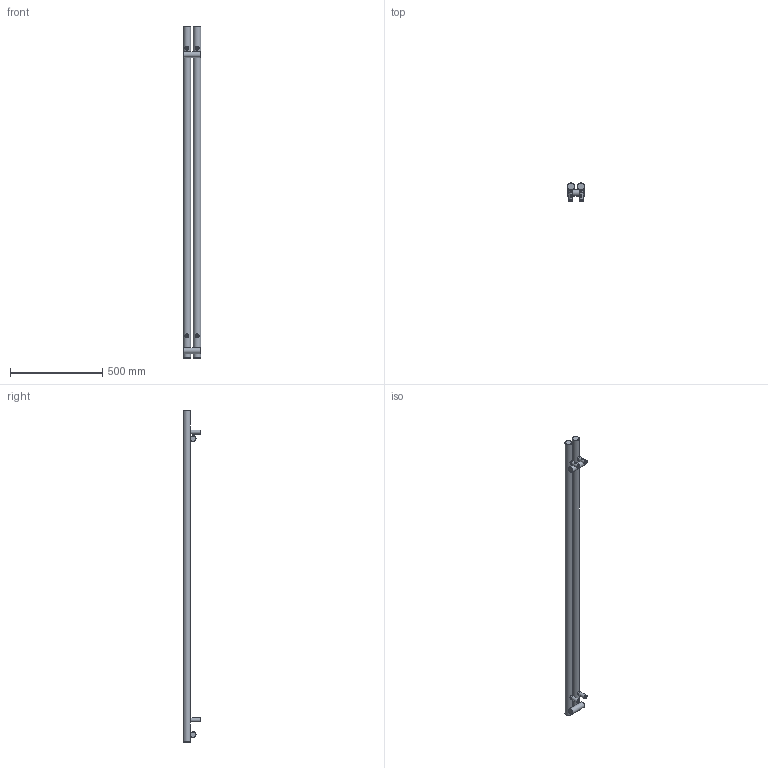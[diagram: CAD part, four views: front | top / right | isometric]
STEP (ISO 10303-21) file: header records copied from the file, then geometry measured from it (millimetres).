
FILE_DESCRIPTION(/* description */ (''),/* implementation_level */ '2;1');
FILE_NAME(/* name */ 'Z:\R\G\P\RGP116 - Grzejniki Geyser\Work\Inventor\Circolo (Rolo V, Rolo H)\ROLO-ROOM\Marketing\Bryły 3D\Zaokrąglone\WLROR180009-ES-CK-(Z).stp',/* time_stamp */ '2024-03-29T15:52:49+01:00',/* author */ ('NowAd'),/* organization */ (''),/* preprocessor_version */ 'ST-DEVELOPER v17.2',/* originating_system */ 'Autodesk Inventor 2019',/* authorisation */ '');
FILE_SCHEMA (('AUTOMOTIVE_DESIGN { 1 0 10303 214 3 1 1 }'));
Length unit declared in the file: millimetre
Products named in the file (3): WLROR180009-ES-CK-(Z); PGROR180009-ES-CK-(K); CK-V-fi40 marketing
Assembly tree (5 placements, depth 2):
  WLROR180009-ES-CK-(Z)
    PGROR180009-ES-CK-(K)
    CK-V-fi40 marketing  x4
Bounding box: 95 x 96.5 x 1800 mm (x, y, z)
Volume: 4719692.9 mm3; surface area: 509900.7 mm2
Topology: 5 solids, 5 shells, 296 faces, 754 edges, 504 vertices
Faces by surface type: plane 126, cylinder 70, cone 60, torus 36, bspline 4
Full cylindrical faces by diameter (mm): 4.134 x4, 4.48 x4, 6.4 x4, 10 x4, 12 x4, 15.834 x4, 16 x4, 18.631 x2, 22 x4, 32 x2, 40 x2
Entity records: 4739 total; most frequent: CARTESIAN_POINT 1962, DIRECTION 583, ORIENTED_EDGE 546, EDGE_CURVE 273, AXIS2_PLACEMENT_3D 256, VERTEX_POINT 186, EDGE_LOOP 139, CIRCLE 131
